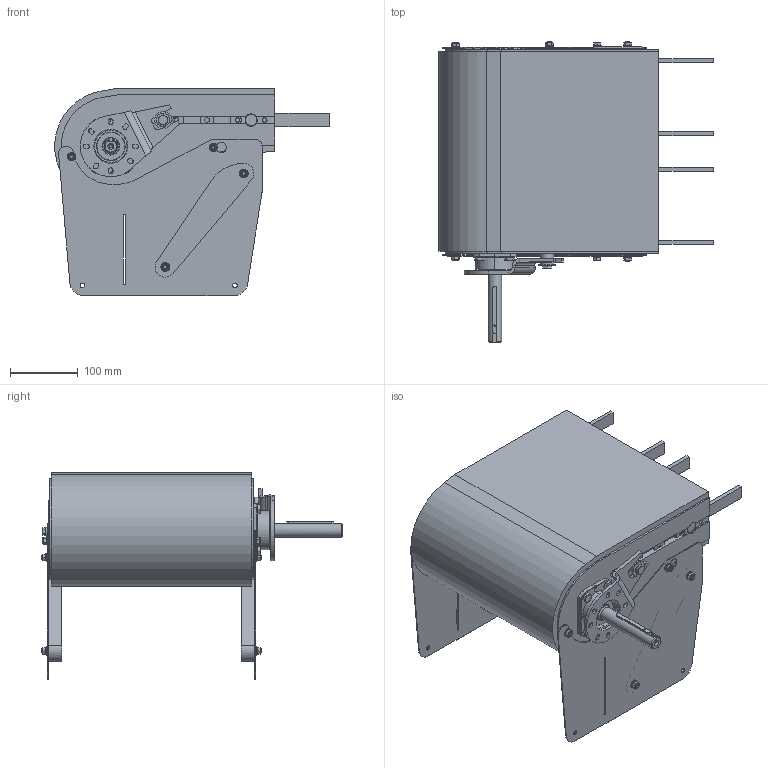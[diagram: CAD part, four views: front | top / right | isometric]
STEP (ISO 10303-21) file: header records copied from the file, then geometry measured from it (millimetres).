
FILE_DESCRIPTION(/* description */ ('Endantriebseinheit F300, schwer'),/* implementation_level */ '2;1');
FILE_NAME(/* name */ 'T:\tli0\3D-Daten für Website\F300\Antriebseinheit\FBEB_A300HNLP_M_85364.stp',/* time_stamp */ '2026-05-28T12:33:56+02:00',/* author */ ('Tli0'),/* organization */ ('modular automation GmbH'),/* preprocessor_version */ 'ST-DEVELOPER v18.1',/* originating_system */ 'Autodesk Inventor 2021',/* authorisation */ '');
FILE_SCHEMA (('AUTOMOTIVE_DESIGN { 1 0 10303 214 3 1 1 }'));
Length unit declared in the file: millimetre
Products named in the file (1): FBEB_A300HNLP_M
Bounding box: 404.58 x 444.7 x 305.25 mm (x, y, z)
Volume: 12793536.5 mm3; surface area: 1107209.3 mm2
Topology: 2 solids, 23 shells, 862 faces, 2147 edges, 1398 vertices
Faces by surface type: plane 473, cylinder 258, cone 119, torus 8, bspline 4
Full cylindrical faces by diameter (mm): 2.459 x1, 4 x8, 4.917 x3, 6 x18, 6.4 x8, 6.6 x8, 6.647 x16, 8 x5, 8.1 x1, 9 x4, 10 x1, 11.63 x5, 12 x14, 12.1 x1, 16 x1, 20 x2, 22.7 x1, 25 x4, 30 x1, 35 x2, 36 x2, 42 x2, 50 x1, 86 x1, 89 x1
Entity records: 27222 total; most frequent: CARTESIAN_POINT 5679, DIRECTION 4323, ORIENTED_EDGE 4274, EDGE_CURVE 2138, AXIS2_PLACEMENT_3D 1574, VERTEX_POINT 1398, LINE 1175, VECTOR 1175
